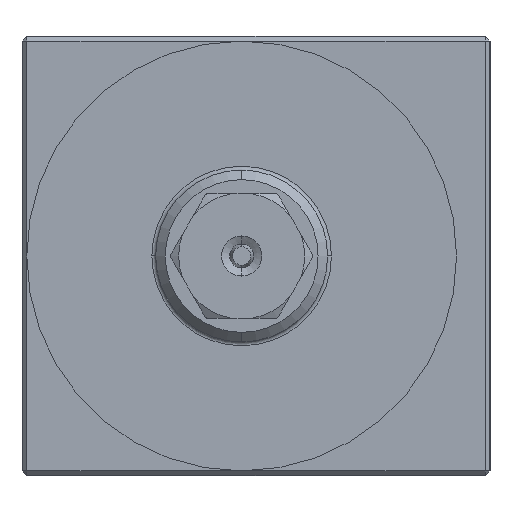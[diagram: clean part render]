
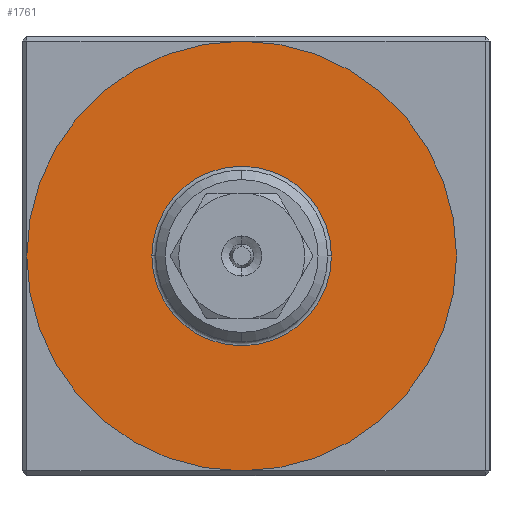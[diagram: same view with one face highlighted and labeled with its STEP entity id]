
A CAD part, left-side view. The second image highlights one B-rep face of the part: STEP entity #1761.
In plain terms, the highlighted planar face has unit normal (-1, 0, 0).
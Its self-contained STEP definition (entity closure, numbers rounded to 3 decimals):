
#508 = CARTESIAN_POINT ( 'NONE',  ( -39., 26., 22.5 ) ) ;
#752 = CARTESIAN_POINT ( 'NONE',  ( -39., 16.6, 0. ) ) ;
#988 = PLANE ( 'NONE',  #13408 ) ;
#1559 = EDGE_CURVE ( 'NONE', #7853, #2708, #13016, .T. ) ;
#1619 = CIRCLE ( 'NONE', #11199, 22.5 ) ;
#1761 = ADVANCED_FACE ( 'NONE', ( #11538, #2189 ), #988, .F. ) ;
#1954 = CARTESIAN_POINT ( 'NONE',  ( -39., 26., -22.5 ) ) ;
#2189 = FACE_BOUND ( 'NONE', #13263, .T. ) ;
#2708 = VERTEX_POINT ( 'NONE', #2994 ) ;
#2740 = DIRECTION ( 'NONE',  ( -1., 0., 0. ) ) ;
#2994 = CARTESIAN_POINT ( 'NONE',  ( -39., 35.4, 0. ) ) ;
#3196 = CIRCLE ( 'NONE', #12608, 9.4 ) ;
#3535 = DIRECTION ( 'NONE',  ( 1., 0., 0. ) ) ;
#3725 = ORIENTED_EDGE ( 'NONE', *, *, #8776, .T. ) ;
#3888 = ORIENTED_EDGE ( 'NONE', *, *, #1559, .T. ) ;
#4064 = DIRECTION ( 'NONE',  ( 1., 0., 0. ) ) ;
#4574 = CARTESIAN_POINT ( 'NONE',  ( -39., 26., 0. ) ) ;
#5325 = DIRECTION ( 'NONE',  ( 0., 0., 1. ) ) ;
#5393 = DIRECTION ( 'NONE',  ( -1., 0., 0. ) ) ;
#5702 = ORIENTED_EDGE ( 'NONE', *, *, #11587, .T. ) ;
#6725 = VERTEX_POINT ( 'NONE', #1954 ) ;
#6871 = DIRECTION ( 'NONE',  ( 0., -1., 0. ) ) ;
#6980 = AXIS2_PLACEMENT_3D ( 'NONE', #10055, #2740, #13194 ) ;
#7223 = CARTESIAN_POINT ( 'NONE',  ( -39., 48.5, 0. ) ) ;
#7425 = CIRCLE ( 'NONE', #6980, 22.5 ) ;
#7718 = DIRECTION ( 'NONE',  ( 1., 0., 0. ) ) ;
#7823 = ORIENTED_EDGE ( 'NONE', *, *, #10383, .T. ) ;
#7853 = VERTEX_POINT ( 'NONE', #752 ) ;
#8268 = DIRECTION ( 'NONE',  ( 0., 0., -1. ) ) ;
#8545 = DIRECTION ( 'NONE',  ( 0., -1., 0. ) ) ;
#8776 = EDGE_CURVE ( 'NONE', #2708, #7853, #3196, .T. ) ;
#8807 = CARTESIAN_POINT ( 'NONE',  ( -39., 26., 0. ) ) ;
#8813 = VERTEX_POINT ( 'NONE', #508 ) ;
#8851 = AXIS2_PLACEMENT_3D ( 'NONE', #12931, #3535, #8545 ) ;
#10055 = CARTESIAN_POINT ( 'NONE',  ( -39., 26., 0. ) ) ;
#10383 = EDGE_CURVE ( 'NONE', #6725, #8813, #7425, .T. ) ;
#10504 = EDGE_LOOP ( 'NONE', ( #5702, #7823 ) ) ;
#11199 = AXIS2_PLACEMENT_3D ( 'NONE', #4574, #5393, #5325 ) ;
#11538 = FACE_OUTER_BOUND ( 'NONE', #10504, .T. ) ;
#11587 = EDGE_CURVE ( 'NONE', #8813, #6725, #1619, .T. ) ;
#12608 = AXIS2_PLACEMENT_3D ( 'NONE', #8807, #7718, #6871 ) ;
#12931 = CARTESIAN_POINT ( 'NONE',  ( -39., 26., 0. ) ) ;
#13016 = CIRCLE ( 'NONE', #8851, 9.4 ) ;
#13194 = DIRECTION ( 'NONE',  ( 0., 0., 1. ) ) ;
#13263 = EDGE_LOOP ( 'NONE', ( #3888, #3725 ) ) ;
#13408 = AXIS2_PLACEMENT_3D ( 'NONE', #7223, #4064, #8268 ) ;
